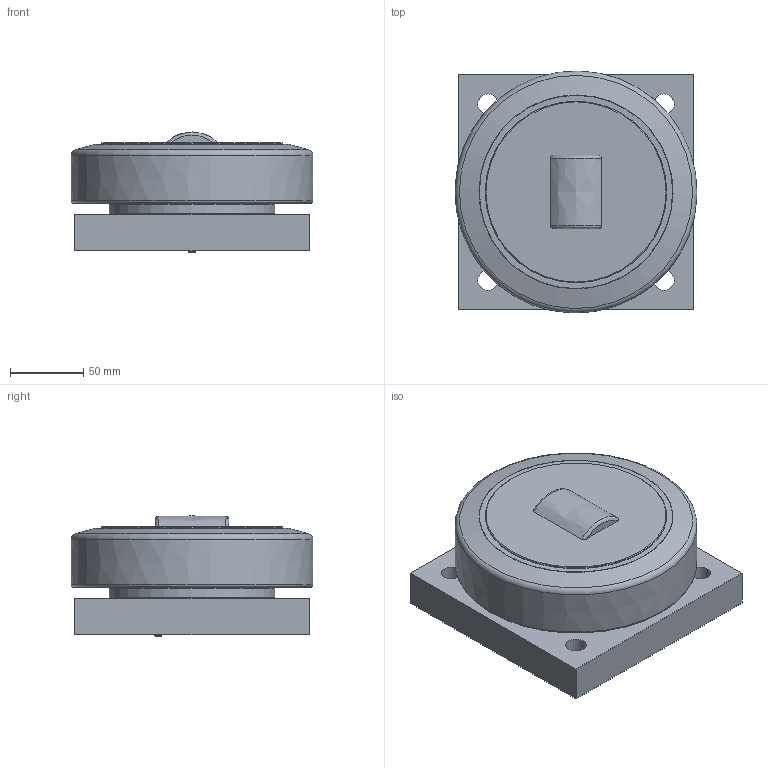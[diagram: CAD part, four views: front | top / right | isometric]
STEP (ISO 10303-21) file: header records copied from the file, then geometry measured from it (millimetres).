
FILE_DESCRIPTION((''),'2;1');
FILE_NAME('K:\Daten\KOMPONENTEN 2D + 3D\KOMPONENTEN Step-Files für extern\_ALFATEC_Mammutrollen und Profile\MR .0610 mit Platte\ALFATEC_MR 165.0610_BQ1000.stp','2013-10-01T13:25:11',('hipp'),(''),'Autodesk Inventor 2013','Autodesk Inventor 2013','');
FILE_SCHEMA(('CONFIG_CONTROL_DESIGN'));
Length unit declared in the file: millimetre
Products named in the file (1): MR 165.0610_BQ1000_Shrinkwrap_1
Bounding box: 164.85 x 164.85 x 81.8 mm (x, y, z)
Volume: 1506140.8 mm3; surface area: 120015.1 mm2
Topology: 1 solids, 1 shells, 57 faces, 127 edges, 79 vertices
Faces by surface type: plane 20, cone 19, cylinder 8, torus 7, bspline 2, sphere 1
Full cylindrical faces by diameter (mm): 13.835 x4, 75 x1, 80 x1, 113 x1, 123.8 x1
Entity records: 1548 total; most frequent: CARTESIAN_POINT 360, DIRECTION 226, ORIENTED_EDGE 194, AXIS2_PLACEMENT_3D 103, EDGE_CURVE 97, EDGE_LOOP 94, VERTEX_POINT 71, FACE_OUTER_BOUND 57
